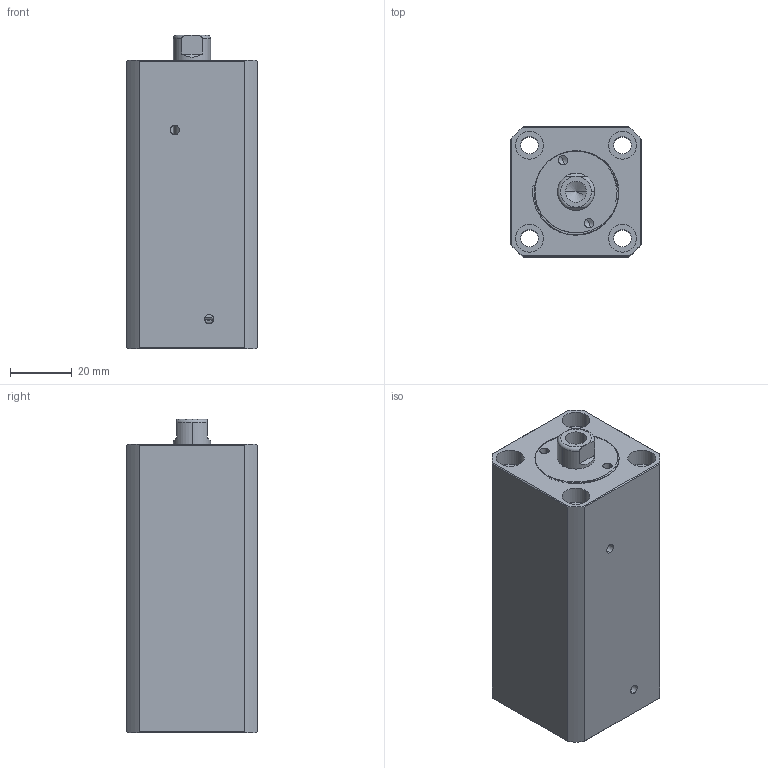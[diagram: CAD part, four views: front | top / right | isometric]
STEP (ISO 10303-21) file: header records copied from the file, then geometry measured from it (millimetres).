
FILE_DESCRIPTION (( 'STEP AP214' ), '1' );
FILE_NAME ('chtb-sdmb20x50n_asm.STEP', '2018-05-18T08:28:12', ( 'Windows' ), ( 'Microsoft' ), 'SwSTEP 2.0', 'SolidWorks 2015', '' );
FILE_SCHEMA (( 'AUTOMOTIVE_DESIGN' ));
Length unit declared in the file: millimetre
Products named in the file (4): CHTB-SDMB20X50NHSG; CHTB-SDMB20X50NBT; chtb-sdmb20x50n_asm; QG_3
Assembly tree (3 placements, depth 2):
  chtb-sdmb20x50n_asm
    CHTB-SDMB20X50NBT
    CHTB-SDMB20X50NHSG
    QG_3
Bounding box: 42 x 42 x 101 mm (x, y, z)
Volume: 138546.5 mm3; surface area: 41204.9 mm2
Topology: 3 solids, 3 shells, 201 faces, 535 edges, 354 vertices
Faces by surface type: cylinder 106, plane 43, torus 25, bspline 21, cone 6
Entity records: 11558 total; most frequent: CARTESIAN_POINT 6663, ORIENTED_EDGE 1058, DIRECTION 922, EDGE_CURVE 529, AXIS2_PLACEMENT_3D 388, VERTEX_POINT 354, EDGE_LOOP 239, CIRCLE 202
